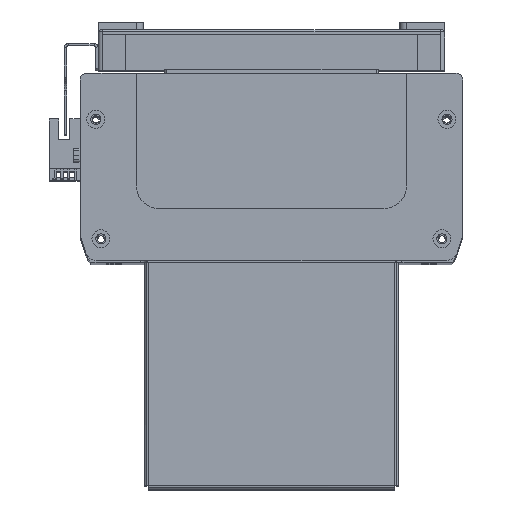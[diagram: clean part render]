
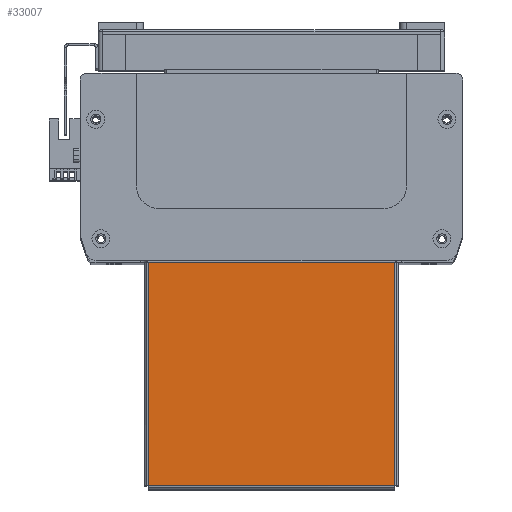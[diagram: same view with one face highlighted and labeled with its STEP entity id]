
A CAD part, top view. The second image highlights one B-rep face of the part: STEP entity #33007.
In plain terms, the highlighted planar face has unit normal (0, 0, 1).
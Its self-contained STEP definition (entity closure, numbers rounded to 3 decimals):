
#12226 = PLANE ( 'NONE',  #24509 ) ;
#12236 = CARTESIAN_POINT ( 'NONE',  ( 0., 0., 0. ) ) ;
#12238 = DIRECTION ( 'NONE',  ( 0., 0., 1. ) ) ;
#12240 = DIRECTION ( 'NONE',  ( 1., 0., 0. ) ) ;
#15459 = VECTOR ( 'NONE', #16430, 1000. ) ;
#15463 = LINE ( 'NONE', #16424, #15459 ) ;
#15464 = VECTOR ( 'NONE', #16403, 1000. ) ;
#15469 = LINE ( 'NONE', #16487, #15470 ) ;
#15470 = VECTOR ( 'NONE', #16459, 1000. ) ;
#15478 = LINE ( 'NONE', #16395, #15490 ) ;
#15490 = VECTOR ( 'NONE', #16407, 1000. ) ;
#15493 = LINE ( 'NONE', #16381, #15464 ) ;
#16381 = CARTESIAN_POINT ( 'NONE',  ( -54.763, 50., 0. ) ) ;
#16395 = CARTESIAN_POINT ( 'NONE',  ( -54.793, -49.263, 0. ) ) ;
#16403 = DIRECTION ( 'NONE',  ( 0., -1., 0. ) ) ;
#16407 = DIRECTION ( 'NONE',  ( 1., 0., 0. ) ) ;
#16424 = CARTESIAN_POINT ( 'NONE',  ( -55.5, 50., 0. ) ) ;
#16430 = DIRECTION ( 'NONE',  ( -1., 0., 0. ) ) ;
#16459 = DIRECTION ( 'NONE',  ( 0., 1., 0. ) ) ;
#16487 = CARTESIAN_POINT ( 'NONE',  ( 54.763, -49.293, 0. ) ) ;
#23555 = FACE_OUTER_BOUND ( 'NONE', #31040, .T. ) ;
#24509 = AXIS2_PLACEMENT_3D ( 'NONE', #12236, #12238, #12240 ) ;
#25073 = VERTEX_POINT ( 'NONE', #46522 ) ;
#25118 = VERTEX_POINT ( 'NONE', #46495 ) ;
#25127 = VERTEX_POINT ( 'NONE', #46547 ) ;
#25158 = VERTEX_POINT ( 'NONE', #28260 ) ;
#27591 = ORIENTED_EDGE ( 'NONE', *, *, #45664, .T. ) ;
#28260 = CARTESIAN_POINT ( 'NONE',  ( 54.763, 50., 0. ) ) ;
#31040 = EDGE_LOOP ( 'NONE', ( #31579, #31610, #31572, #27591 ) ) ;
#31572 = ORIENTED_EDGE ( 'NONE', *, *, #45673, .T. ) ;
#31579 = ORIENTED_EDGE ( 'NONE', *, *, #45641, .T. ) ;
#31610 = ORIENTED_EDGE ( 'NONE', *, *, #45640, .T. ) ;
#33007 = ADVANCED_FACE ( 'NONE', ( #23555 ), #12226, .T. ) ;
#45640 = EDGE_CURVE ( 'NONE', #25127, #25118, #15478, .T. ) ;
#45641 = EDGE_CURVE ( 'NONE', #25073, #25127, #15493, .T. ) ;
#45664 = EDGE_CURVE ( 'NONE', #25158, #25073, #15463, .T. ) ;
#45673 = EDGE_CURVE ( 'NONE', #25118, #25158, #15469, .T. ) ;
#46495 = CARTESIAN_POINT ( 'NONE',  ( 54.763, -49.263, 0. ) ) ;
#46522 = CARTESIAN_POINT ( 'NONE',  ( -54.763, 50., 0. ) ) ;
#46547 = CARTESIAN_POINT ( 'NONE',  ( -54.763, -49.263, 0. ) ) ;
